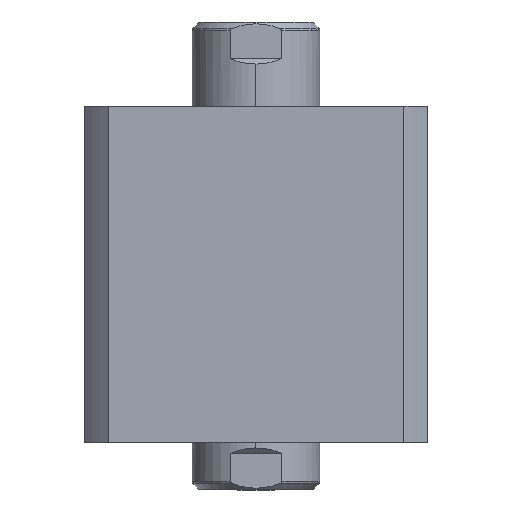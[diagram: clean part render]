
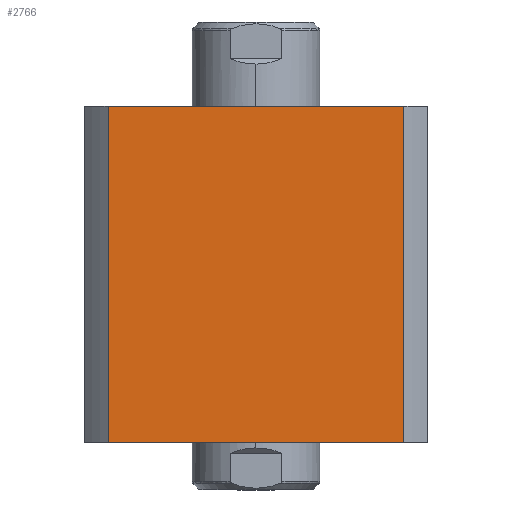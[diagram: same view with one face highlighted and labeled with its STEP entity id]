
A CAD part, left-side view. The second image highlights one B-rep face of the part: STEP entity #2766.
In plain terms, the highlighted planar face has unit normal (-1, 0, 0).
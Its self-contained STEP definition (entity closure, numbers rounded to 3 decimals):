
#868 = VERTEX_POINT ( 'NONE', #18134 ) ;
#1347 = VECTOR ( 'NONE', #8788, 1000. ) ;
#2617 = CARTESIAN_POINT ( 'NONE',  ( -47., 40.435, 0. ) ) ;
#2766 = ADVANCED_FACE ( 'NONE', ( #12827 ), #15791, .F. ) ;
#3006 = DIRECTION ( 'NONE',  ( 0., 1., 0. ) ) ;
#3406 = AXIS2_PLACEMENT_3D ( 'NONE', #11458, #11518, #3006 ) ;
#4504 = CARTESIAN_POINT ( 'NONE',  ( -47., -40.435, 92. ) ) ;
#4717 = LINE ( 'NONE', #12374, #11374 ) ;
#5138 = VERTEX_POINT ( 'NONE', #4504 ) ;
#5679 = DIRECTION ( 'NONE',  ( 0., 0., 1. ) ) ;
#6194 = VERTEX_POINT ( 'NONE', #9195 ) ;
#6238 = ORIENTED_EDGE ( 'NONE', *, *, #15095, .T. ) ;
#7346 = VERTEX_POINT ( 'NONE', #2617 ) ;
#7620 = EDGE_CURVE ( 'NONE', #868, #5138, #9002, .T. ) ;
#8788 = DIRECTION ( 'NONE',  ( 0., 0., -1. ) ) ;
#9002 = LINE ( 'NONE', #16080, #12354 ) ;
#9103 = ORIENTED_EDGE ( 'NONE', *, *, #15458, .F. ) ;
#9195 = CARTESIAN_POINT ( 'NONE',  ( -47., -40.435, 0. ) ) ;
#10501 = LINE ( 'NONE', #15677, #13852 ) ;
#11374 = VECTOR ( 'NONE', #13812, 1000. ) ;
#11458 = CARTESIAN_POINT ( 'NONE',  ( -47., 47., 92. ) ) ;
#11518 = DIRECTION ( 'NONE',  ( 1., 0., 0. ) ) ;
#11839 = ORIENTED_EDGE ( 'NONE', *, *, #17518, .F. ) ;
#12256 = LINE ( 'NONE', #17338, #1347 ) ;
#12354 = VECTOR ( 'NONE', #17498, 1000. ) ;
#12374 = CARTESIAN_POINT ( 'NONE',  ( -47., 47., 0. ) ) ;
#12418 = EDGE_LOOP ( 'NONE', ( #11839, #12997, #9103, #6238 ) ) ;
#12827 = FACE_OUTER_BOUND ( 'NONE', #12418, .T. ) ;
#12997 = ORIENTED_EDGE ( 'NONE', *, *, #7620, .F. ) ;
#13812 = DIRECTION ( 'NONE',  ( 0., -1., 0. ) ) ;
#13852 = VECTOR ( 'NONE', #5679, 1000. ) ;
#15095 = EDGE_CURVE ( 'NONE', #7346, #6194, #4717, .T. ) ;
#15458 = EDGE_CURVE ( 'NONE', #7346, #868, #10501, .T. ) ;
#15677 = CARTESIAN_POINT ( 'NONE',  ( -47., 40.435, 300. ) ) ;
#15791 = PLANE ( 'NONE',  #3406 ) ;
#16080 = CARTESIAN_POINT ( 'NONE',  ( -47., 47., 92. ) ) ;
#17338 = CARTESIAN_POINT ( 'NONE',  ( -47., -40.435, 300. ) ) ;
#17498 = DIRECTION ( 'NONE',  ( 0., -1., 0. ) ) ;
#17518 = EDGE_CURVE ( 'NONE', #5138, #6194, #12256, .T. ) ;
#18134 = CARTESIAN_POINT ( 'NONE',  ( -47., 40.435, 92. ) ) ;
